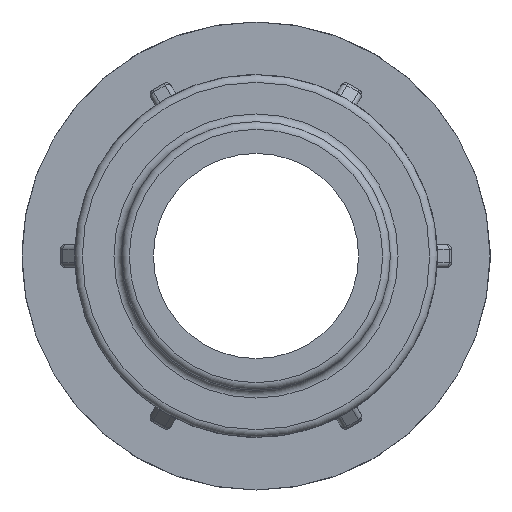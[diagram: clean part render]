
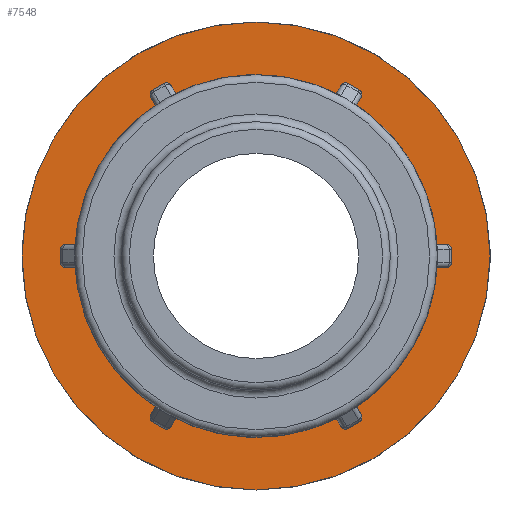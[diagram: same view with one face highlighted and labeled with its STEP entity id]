
A CAD part, left-side view. The second image highlights one B-rep face of the part: STEP entity #7548.
In plain terms, the highlighted planar face has unit normal (-1, 0, 0).
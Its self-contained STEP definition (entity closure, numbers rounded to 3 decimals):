
#26=FACE_BOUND('',#1424,.T.);
#113=ELLIPSE('',#7628,1.131,0.8);
#114=ELLIPSE('',#7649,1.131,0.8);
#117=ELLIPSE('',#7744,1.131,0.8);
#118=ELLIPSE('',#7765,1.131,0.8);
#121=ELLIPSE('',#7860,1.131,0.8);
#122=ELLIPSE('',#7881,1.131,0.8);
#125=ELLIPSE('',#7976,1.131,0.8);
#126=ELLIPSE('',#7997,1.131,0.8);
#129=ELLIPSE('',#8092,1.131,0.8);
#130=ELLIPSE('',#8113,1.131,0.8);
#134=ELLIPSE('',#8383,1.131,0.8);
#135=ELLIPSE('',#8404,1.131,0.8);
#288=PLANE('',#8471);
#943=FACE_OUTER_BOUND('',#1423,.T.);
#1423=EDGE_LOOP('',(#6832));
#1424=EDGE_LOOP('',(#6833,#6834,#6835,#6836,#6837,#6838,#6839,#6840,#6841,
#6842,#6843,#6844,#6845,#6846,#6847,#6848,#6849,#6850,#6851,#6852,#6853,
#6854,#6855,#6856));
#1476=LINE('',#11111,#1926);
#1535=LINE('',#11586,#1985);
#1594=LINE('',#12063,#2044);
#1653=LINE('',#12538,#2103);
#1712=LINE('',#13013,#2162);
#1859=LINE('',#14365,#2309);
#1926=VECTOR('',#8664,2.05);
#1985=VECTOR('',#8955,2.05);
#2044=VECTOR('',#9246,2.05);
#2103=VECTOR('',#9537,2.05);
#2162=VECTOR('',#9828,2.05);
#2309=VECTOR('',#10557,2.05);
#2755=CIRCLE('',#8309,27.336);
#2756=CIRCLE('',#8311,27.336);
#2757=CIRCLE('',#8313,27.336);
#2758=CIRCLE('',#8315,27.336);
#2759=CIRCLE('',#8317,27.336);
#2842=CIRCLE('',#8472,36.5);
#2843=CIRCLE('',#8473,27.336);
#2907=VERTEX_POINT('',#11091);
#2908=VERTEX_POINT('',#11103);
#2910=VERTEX_POINT('',#11109);
#2923=VERTEX_POINT('',#11166);
#2996=VERTEX_POINT('',#11566);
#2997=VERTEX_POINT('',#11578);
#2999=VERTEX_POINT('',#11584);
#3012=VERTEX_POINT('',#11641);
#3085=VERTEX_POINT('',#12043);
#3086=VERTEX_POINT('',#12055);
#3088=VERTEX_POINT('',#12061);
#3101=VERTEX_POINT('',#12118);
#3174=VERTEX_POINT('',#12518);
#3175=VERTEX_POINT('',#12530);
#3177=VERTEX_POINT('',#12536);
#3190=VERTEX_POINT('',#12593);
#3263=VERTEX_POINT('',#12993);
#3264=VERTEX_POINT('',#13005);
#3266=VERTEX_POINT('',#13011);
#3279=VERTEX_POINT('',#13068);
#3435=VERTEX_POINT('',#14109);
#3482=VERTEX_POINT('',#14345);
#3483=VERTEX_POINT('',#14357);
#3485=VERTEX_POINT('',#14363);
#3521=VERTEX_POINT('',#14559);
#3611=EDGE_CURVE('',#2908,#2907,#113,.F.);
#3614=EDGE_CURVE('',#2908,#2910,#1476,.T.);
#3639=EDGE_CURVE('',#2910,#2923,#114,.T.);
#3753=EDGE_CURVE('',#2997,#2996,#117,.F.);
#3756=EDGE_CURVE('',#2997,#2999,#1535,.T.);
#3781=EDGE_CURVE('',#2999,#3012,#118,.T.);
#3895=EDGE_CURVE('',#3086,#3085,#121,.F.);
#3898=EDGE_CURVE('',#3086,#3088,#1594,.T.);
#3923=EDGE_CURVE('',#3088,#3101,#122,.T.);
#4037=EDGE_CURVE('',#3175,#3174,#125,.F.);
#4040=EDGE_CURVE('',#3175,#3177,#1653,.T.);
#4065=EDGE_CURVE('',#3177,#3190,#126,.T.);
#4179=EDGE_CURVE('',#3264,#3263,#129,.F.);
#4182=EDGE_CURVE('',#3264,#3266,#1712,.T.);
#4207=EDGE_CURVE('',#3266,#3279,#130,.T.);
#4483=EDGE_CURVE('',#3263,#3435,#2755,.F.);
#4486=EDGE_CURVE('',#3279,#3174,#2756,.T.);
#4487=EDGE_CURVE('',#3190,#3085,#2757,.T.);
#4488=EDGE_CURVE('',#3101,#2996,#2758,.T.);
#4489=EDGE_CURVE('',#3012,#2907,#2759,.T.);
#4567=EDGE_CURVE('',#3483,#3482,#134,.F.);
#4570=EDGE_CURVE('',#3483,#3485,#1859,.T.);
#4594=EDGE_CURVE('',#3485,#3435,#135,.T.);
#4644=EDGE_CURVE('',#3521,#3521,#2842,.T.);
#4645=EDGE_CURVE('',#2923,#3482,#2843,.T.);
#6832=ORIENTED_EDGE('',*,*,#4644,.F.);
#6833=ORIENTED_EDGE('',*,*,#4645,.T.);
#6834=ORIENTED_EDGE('',*,*,#4567,.F.);
#6835=ORIENTED_EDGE('',*,*,#4570,.T.);
#6836=ORIENTED_EDGE('',*,*,#4594,.T.);
#6837=ORIENTED_EDGE('',*,*,#4483,.F.);
#6838=ORIENTED_EDGE('',*,*,#4179,.F.);
#6839=ORIENTED_EDGE('',*,*,#4182,.T.);
#6840=ORIENTED_EDGE('',*,*,#4207,.T.);
#6841=ORIENTED_EDGE('',*,*,#4486,.T.);
#6842=ORIENTED_EDGE('',*,*,#4037,.F.);
#6843=ORIENTED_EDGE('',*,*,#4040,.T.);
#6844=ORIENTED_EDGE('',*,*,#4065,.T.);
#6845=ORIENTED_EDGE('',*,*,#4487,.T.);
#6846=ORIENTED_EDGE('',*,*,#3895,.F.);
#6847=ORIENTED_EDGE('',*,*,#3898,.T.);
#6848=ORIENTED_EDGE('',*,*,#3923,.T.);
#6849=ORIENTED_EDGE('',*,*,#4488,.T.);
#6850=ORIENTED_EDGE('',*,*,#3753,.F.);
#6851=ORIENTED_EDGE('',*,*,#3756,.T.);
#6852=ORIENTED_EDGE('',*,*,#3781,.T.);
#6853=ORIENTED_EDGE('',*,*,#4489,.T.);
#6854=ORIENTED_EDGE('',*,*,#3611,.F.);
#6855=ORIENTED_EDGE('',*,*,#3614,.T.);
#6856=ORIENTED_EDGE('',*,*,#3639,.T.);
#7548=ADVANCED_FACE('',(#943,#26),#288,.T.);
#7628=AXIS2_PLACEMENT_3D('',#11105,#8658,#8659);
#7649=AXIS2_PLACEMENT_3D('',#11167,#8720,#8721);
#7744=AXIS2_PLACEMENT_3D('',#11580,#8949,#8950);
#7765=AXIS2_PLACEMENT_3D('',#11642,#9011,#9012);
#7860=AXIS2_PLACEMENT_3D('',#12057,#9240,#9241);
#7881=AXIS2_PLACEMENT_3D('',#12119,#9302,#9303);
#7976=AXIS2_PLACEMENT_3D('',#12532,#9531,#9532);
#7997=AXIS2_PLACEMENT_3D('',#12594,#9593,#9594);
#8092=AXIS2_PLACEMENT_3D('',#13007,#9822,#9823);
#8113=AXIS2_PLACEMENT_3D('',#13069,#9884,#9885);
#8309=AXIS2_PLACEMENT_3D('',#14110,#10371,#10372);
#8311=AXIS2_PLACEMENT_3D('',#14126,#10375,#10376);
#8313=AXIS2_PLACEMENT_3D('',#14128,#10379,#10380);
#8315=AXIS2_PLACEMENT_3D('',#14130,#10383,#10384);
#8317=AXIS2_PLACEMENT_3D('',#14132,#10387,#10388);
#8383=AXIS2_PLACEMENT_3D('',#14359,#10551,#10552);
#8404=AXIS2_PLACEMENT_3D('',#14413,#10613,#10614);
#8471=AXIS2_PLACEMENT_3D('',#14558,#10762,#10763);
#8472=AXIS2_PLACEMENT_3D('',#14560,#10764,#10765);
#8473=AXIS2_PLACEMENT_3D('',#14561,#10766,#10767);
#8658=DIRECTION('center_axis',(1.,0.,0.));
#8659=DIRECTION('ref_axis',(0.,0.5,-0.866));
#8664=DIRECTION('',(0.,0.866,0.5));
#8720=DIRECTION('center_axis',(1.,0.,0.));
#8721=DIRECTION('ref_axis',(0.,0.5,-0.866));
#8949=DIRECTION('center_axis',(1.,0.,0.));
#8950=DIRECTION('ref_axis',(0.,-0.5,-0.866));
#8955=DIRECTION('',(0.,0.866,-0.5));
#9011=DIRECTION('center_axis',(1.,0.,0.));
#9012=DIRECTION('ref_axis',(0.,-0.5,-0.866));
#9240=DIRECTION('center_axis',(1.,0.,0.));
#9241=DIRECTION('ref_axis',(0.,-1.,0.));
#9246=DIRECTION('',(0.,0.,-1.));
#9302=DIRECTION('center_axis',(1.,0.,0.));
#9303=DIRECTION('ref_axis',(0.,-1.,0.));
#9531=DIRECTION('center_axis',(1.,0.,0.));
#9532=DIRECTION('ref_axis',(0.,-0.5,0.866));
#9537=DIRECTION('',(0.,-0.866,-0.5));
#9593=DIRECTION('center_axis',(1.,0.,0.));
#9594=DIRECTION('ref_axis',(0.,-0.5,0.866));
#9822=DIRECTION('center_axis',(1.,0.,0.));
#9823=DIRECTION('ref_axis',(0.,0.5,0.866));
#9828=DIRECTION('',(0.,-0.866,0.5));
#9884=DIRECTION('center_axis',(1.,0.,0.));
#9885=DIRECTION('ref_axis',(0.,0.5,0.866));
#10371=DIRECTION('center_axis',(1.,0.,0.));
#10372=DIRECTION('ref_axis',(0.,1.,0.));
#10375=DIRECTION('center_axis',(1.,0.,0.));
#10376=DIRECTION('ref_axis',(0.,1.,0.));
#10379=DIRECTION('center_axis',(1.,0.,0.));
#10380=DIRECTION('ref_axis',(0.,1.,0.));
#10383=DIRECTION('center_axis',(1.,0.,0.));
#10384=DIRECTION('ref_axis',(0.,1.,0.));
#10387=DIRECTION('center_axis',(1.,0.,0.));
#10388=DIRECTION('ref_axis',(0.,1.,0.));
#10551=DIRECTION('center_axis',(1.,0.,0.));
#10552=DIRECTION('ref_axis',(0.,1.,0.));
#10557=DIRECTION('',(0.,0.,1.));
#10613=DIRECTION('center_axis',(1.,0.,0.));
#10614=DIRECTION('ref_axis',(0.,1.,0.));
#10762=DIRECTION('center_axis',(-1.,0.,0.));
#10763=DIRECTION('ref_axis',(0.,0.,1.));
#10764=DIRECTION('center_axis',(1.,0.,0.));
#10765=DIRECTION('ref_axis',(0.,0.,-1.));
#10766=DIRECTION('center_axis',(1.,0.,0.));
#10767=DIRECTION('ref_axis',(0.,1.,0.));
#11091=CARTESIAN_POINT('',(27.82,12.619,-24.249));
#11103=CARTESIAN_POINT('',(27.82,12.78,-24.186));
#11105=CARTESIAN_POINT('Origin',(27.82,12.215,-23.206));
#11109=CARTESIAN_POINT('',(27.82,14.556,-23.161));
#11111=CARTESIAN_POINT('',(27.82,27.356,-15.771));
#11166=CARTESIAN_POINT('',(27.82,14.691,-23.053));
#11167=CARTESIAN_POINT('Origin',(27.82,13.99,-22.181));
#11566=CARTESIAN_POINT('',(27.82,-14.691,-23.053));
#11578=CARTESIAN_POINT('',(27.82,-14.556,-23.161));
#11580=CARTESIAN_POINT('Origin',(27.82,-13.99,-22.181));
#11584=CARTESIAN_POINT('',(27.82,-12.78,-24.186));
#11586=CARTESIAN_POINT('',(27.82,0.019,-31.576));
#11641=CARTESIAN_POINT('',(27.82,-12.619,-24.249));
#11642=CARTESIAN_POINT('Origin',(27.82,-12.215,-23.206));
#12043=CARTESIAN_POINT('',(27.82,-27.31,1.196));
#12055=CARTESIAN_POINT('',(27.82,-27.336,1.025));
#12057=CARTESIAN_POINT('Origin',(27.82,-26.205,1.025));
#12061=CARTESIAN_POINT('',(27.82,-27.336,-1.025));
#12063=CARTESIAN_POINT('',(27.82,-27.336,0.));
#12118=CARTESIAN_POINT('',(27.82,-27.31,-1.196));
#12119=CARTESIAN_POINT('Origin',(27.82,-26.205,-1.025));
#12518=CARTESIAN_POINT('',(27.82,-12.619,24.249));
#12530=CARTESIAN_POINT('',(27.82,-12.78,24.186));
#12532=CARTESIAN_POINT('Origin',(27.82,-12.215,23.206));
#12536=CARTESIAN_POINT('',(27.82,-14.556,23.161));
#12538=CARTESIAN_POINT('',(27.82,0.019,31.576));
#12593=CARTESIAN_POINT('',(27.82,-14.691,23.053));
#12594=CARTESIAN_POINT('Origin',(27.82,-13.99,22.181));
#12993=CARTESIAN_POINT('',(27.82,14.691,23.053));
#13005=CARTESIAN_POINT('',(27.82,14.556,23.161));
#13007=CARTESIAN_POINT('Origin',(27.82,13.99,22.181));
#13011=CARTESIAN_POINT('',(27.82,12.78,24.186));
#13013=CARTESIAN_POINT('',(27.82,27.356,15.771));
#13068=CARTESIAN_POINT('',(27.82,12.619,24.249));
#13069=CARTESIAN_POINT('Origin',(27.82,12.215,23.206));
#14109=CARTESIAN_POINT('',(27.82,27.31,1.196));
#14110=CARTESIAN_POINT('Origin',(27.82,0.,0.));
#14126=CARTESIAN_POINT('Origin',(27.82,0.,0.));
#14128=CARTESIAN_POINT('Origin',(27.82,0.,0.));
#14130=CARTESIAN_POINT('Origin',(27.82,0.,0.));
#14132=CARTESIAN_POINT('Origin',(27.82,0.,0.));
#14345=CARTESIAN_POINT('',(27.82,27.31,-1.196));
#14357=CARTESIAN_POINT('',(27.82,27.336,-1.025));
#14359=CARTESIAN_POINT('Origin',(27.82,26.205,-1.025));
#14363=CARTESIAN_POINT('',(27.82,27.336,1.025));
#14365=CARTESIAN_POINT('',(27.82,27.336,0.));
#14413=CARTESIAN_POINT('Origin',(27.82,26.205,1.025));
#14558=CARTESIAN_POINT('Origin',(27.82,36.5,0.));
#14559=CARTESIAN_POINT('',(27.82,36.5,0.));
#14560=CARTESIAN_POINT('Origin',(27.82,0.,0.));
#14561=CARTESIAN_POINT('Origin',(27.82,0.,0.));
